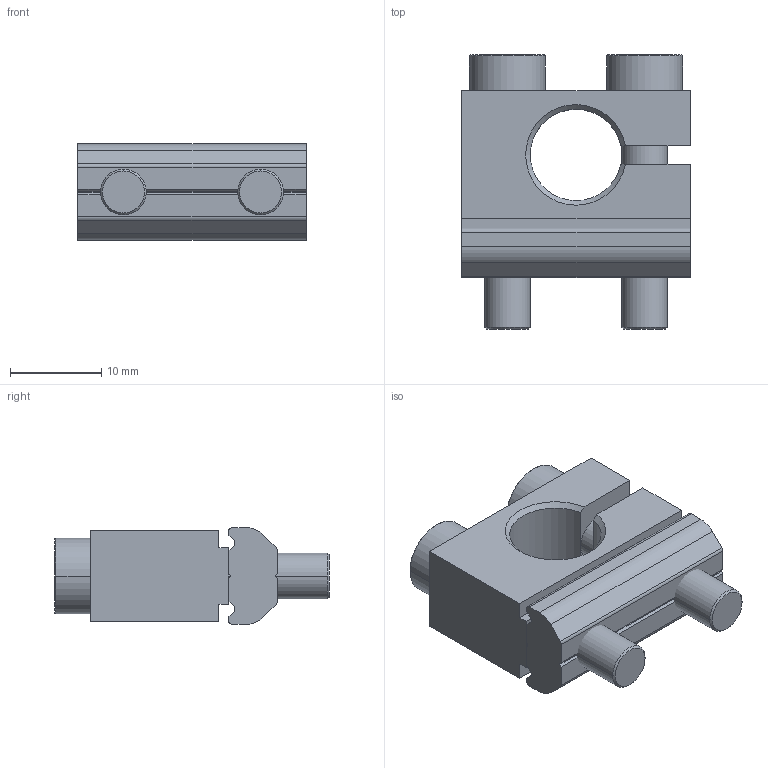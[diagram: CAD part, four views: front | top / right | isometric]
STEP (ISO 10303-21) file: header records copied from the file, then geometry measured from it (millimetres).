
FILE_DESCRIPTION (( 'STEP AP214' ), '1' );
FILE_NAME ('SMBC-1025.STEP', '2019-10-31T05:59:06', ( '微软用户' ), ( '微软中国' ), 'SwSTEP 2.0', 'SolidWorks 2016', '' );
FILE_SCHEMA (( 'AUTOMOTIVE_DESIGN' ));
Length unit declared in the file: millimetre
Products named in the file (5): PTS-M5; PTN-M5P15; PTC-M5L25; SMBC-1025
Assembly tree (6 placements, depth 2):
  SMBC-1025
    SMBC-1025
    PTC-M5L25  x2
    PTN-M5P15
    PTS-M5  x2
Bounding box: 25 x 30 x 10.6 mm (x, y, z)
Volume: 4507.8 mm3; surface area: 4652.2 mm2
Topology: 6 solids, 6 shells, 451 faces, 1309 edges, 868 vertices
Faces by surface type: plane 383, cylinder 49, cone 19
Entity records: 9237 total; most frequent: CARTESIAN_POINT 1799, ORIENTED_EDGE 1550, DIRECTION 1537, EDGE_CURVE 775, AXIS2_PLACEMENT_3D 524, VERTEX_POINT 514, LINE 489, VECTOR 489
